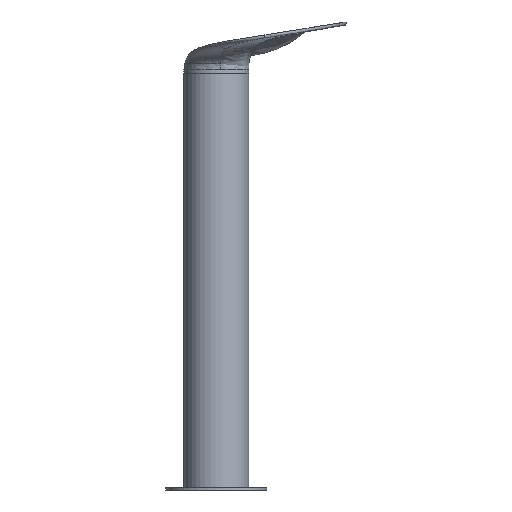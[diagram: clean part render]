
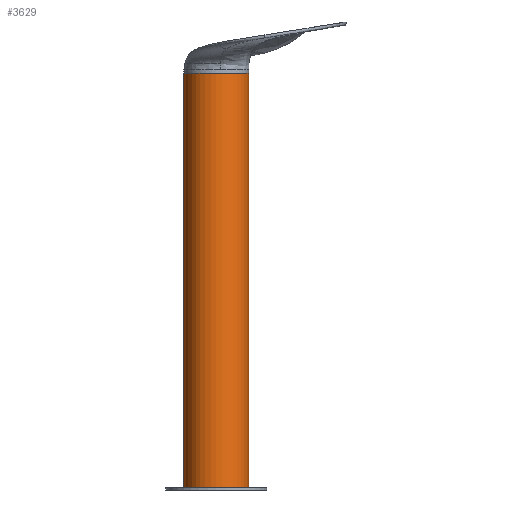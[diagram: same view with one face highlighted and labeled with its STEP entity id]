
A CAD part, left-side view. The second image highlights one B-rep face of the part: STEP entity #3629.
In plain terms, the highlighted cylindrical face has radius 45 mm (diameter 90 mm), a partial arc.
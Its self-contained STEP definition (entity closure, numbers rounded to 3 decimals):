
#633=FACE_OUTER_BOUND('',#838,.T.);
#838=EDGE_LOOP('',(#2476,#2477,#2478,#2479));
#1055=CIRCLE('',#3847,45.);
#1058=CIRCLE('',#3854,45.);
#1135=LINE('',#4728,#1260);
#1136=LINE('',#4729,#1261);
#1260=VECTOR('',#4137,304.8);
#1261=VECTOR('',#4138,304.8);
#1381=VERTEX_POINT('',#4691);
#1383=VERTEX_POINT('',#4694);
#1391=VERTEX_POINT('',#4723);
#1392=VERTEX_POINT('',#4724);
#1827=EDGE_CURVE('',#1392,#1381,#1135,.T.);
#1828=EDGE_CURVE('',#1383,#1391,#1136,.T.);
#1829=EDGE_CURVE('',#1391,#1392,#1055,.T.);
#1832=EDGE_CURVE('',#1381,#1383,#1058,.T.);
#2476=ORIENTED_EDGE('',*,*,#1829,.T.);
#2477=ORIENTED_EDGE('',*,*,#1827,.T.);
#2478=ORIENTED_EDGE('',*,*,#1832,.T.);
#2479=ORIENTED_EDGE('',*,*,#1828,.T.);
#3577=CYLINDRICAL_SURFACE('',#3855,45.);
#3629=ADVANCED_FACE('',(#633),#3577,.T.);
#3847=AXIS2_PLACEMENT_3D('',#4731,#4141,#4142);
#3854=AXIS2_PLACEMENT_3D('',#4738,#4155,#4156);
#3855=AXIS2_PLACEMENT_3D('',#4739,#4157,#4158);
#4137=DIRECTION('',(0.,0.,-1.));
#4138=DIRECTION('',(0.,0.,1.));
#4141=DIRECTION('center_axis',(0.,0.,-1.));
#4142=DIRECTION('ref_axis',(0.,1.,0.));
#4155=DIRECTION('center_axis',(0.,0.,1.));
#4156=DIRECTION('ref_axis',(0.,1.,0.));
#4157=DIRECTION('center_axis',(0.,0.,1.));
#4158=DIRECTION('ref_axis',(0.,1.,0.));
#4691=CARTESIAN_POINT('',(0.,45.,3.));
#4694=CARTESIAN_POINT('',(0.,-45.,3.));
#4723=CARTESIAN_POINT('',(0.,-45.,578.503));
#4724=CARTESIAN_POINT('',(0.,45.,578.503));
#4728=CARTESIAN_POINT('',(0.,45.,578.503));
#4729=CARTESIAN_POINT('',(0.,-45.,3.));
#4731=CARTESIAN_POINT('Origin',(0.,0.,578.503));
#4738=CARTESIAN_POINT('Origin',(0.,0.,3.));
#4739=CARTESIAN_POINT('Origin',(0.,0.,1792.792));
